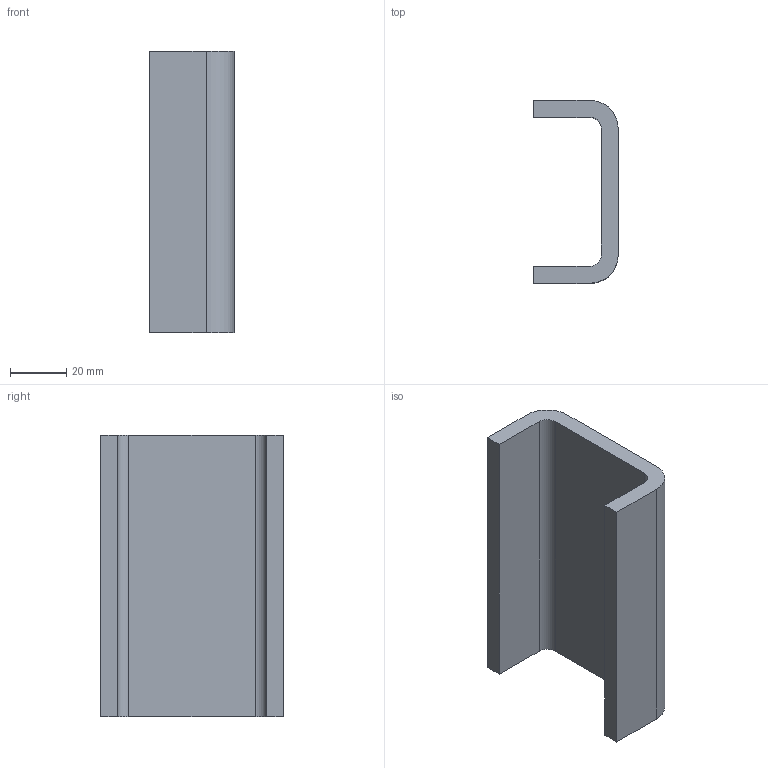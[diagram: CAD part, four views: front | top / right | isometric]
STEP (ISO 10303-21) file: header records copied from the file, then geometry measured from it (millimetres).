
FILE_DESCRIPTION (( 'STEP AP214' ), '1' );
FILE_NAME ('3D5.2700.STEP', '2013-12-17T06:57:58', ( 'usuario' ), ( 'Hewlett-Packard Company' ), 'SwSTEP 2.0', 'SolidWorks 2017', '' );
FILE_SCHEMA (( 'AUTOMOTIVE_DESIGN' ));
Length unit declared in the file: millimetre
Products named in the file (1): 3D5.2700
Bounding box: 30 x 65 x 100 mm (x, y, z)
Volume: 64194.7 mm3; surface area: 23882.1 mm2
Topology: 1 solids, 1 shells, 14 faces, 36 edges, 24 vertices
Faces by surface type: plane 10, cylinder 4
Entity records: 462 total; most frequent: CARTESIAN_POINT 75, DIRECTION 74, ORIENTED_EDGE 72, EDGE_CURVE 36, LINE 28, VECTOR 28, VERTEX_POINT 24, AXIS2_PLACEMENT_3D 23
